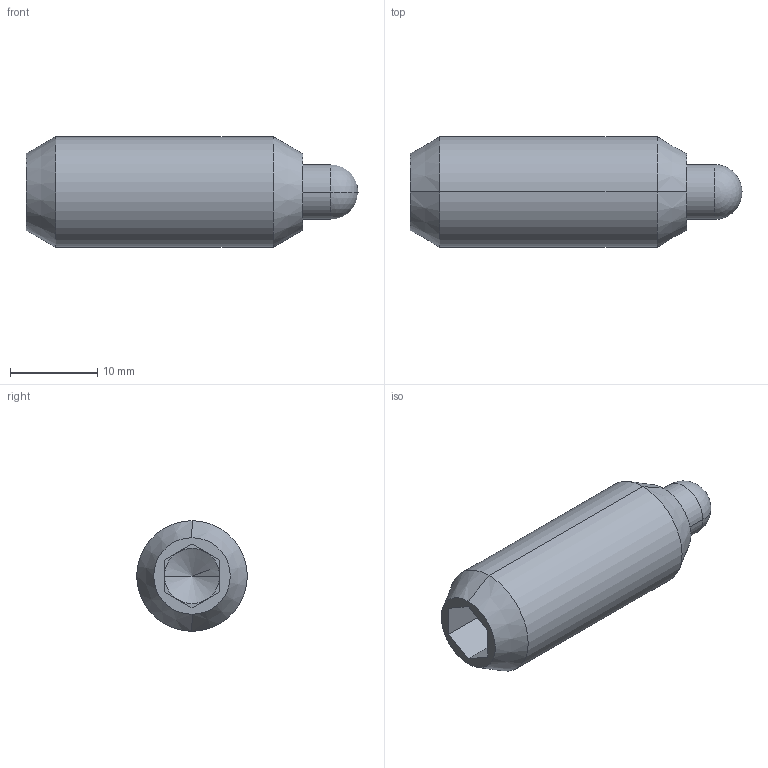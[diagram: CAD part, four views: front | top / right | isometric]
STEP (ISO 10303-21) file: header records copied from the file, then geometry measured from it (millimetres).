
FILE_DESCRIPTION (( 'STEP AP203' ), '1' );
FILE_NAME ('3B20.W250.step', '2009-10-12T13:59:10', ( 'Wixroyd' ), ( 'Wixroyd' ), 'SwSTEP 2.0', 'SolidWorks 2009', '' );
FILE_SCHEMA (( 'CONFIG_CONTROL_DESIGN' ));
Length unit declared in the file: inch
Products named in the file (3): Part1_3B20.W250; Part2_3B20.W250; 3B20.W250
Assembly tree (2 placements, depth 2):
  3B20.W250
    Part1_3B20.W250
    Part2_3B20.W250
Bounding box: 38.1 x 12.7 x 12.7 mm (x, y, z)
Volume: 2826.4 mm3; surface area: 2539.4 mm2
Topology: 2 solids, 2 shells, 43 faces, 92 edges, 52 vertices
Faces by surface type: plane 17, cylinder 12, cone 12, sphere 2
Entity records: 1413 total; most frequent: DIRECTION 220, CARTESIAN_POINT 184, ORIENTED_EDGE 172, EDGE_CURVE 86, AXIS2_PLACEMENT_3D 86, VERTEX_POINT 50, VECTOR 48, LINE 48
